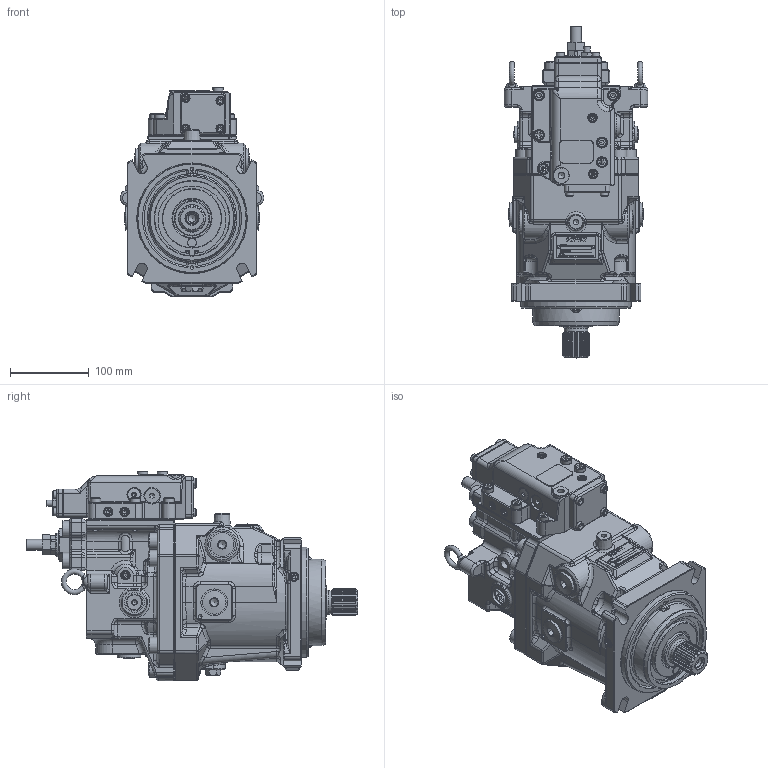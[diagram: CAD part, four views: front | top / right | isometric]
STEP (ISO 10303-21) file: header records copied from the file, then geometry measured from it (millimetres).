
FILE_DESCRIPTION(/* description */ (''),/* implementation_level */ '2;1');
FILE_NAME(/* name */ 'M7V85AC45-AA1H#XXXN-01.stp',/* time_stamp */ '2025-12-17T14:34:50Z',/* author */ ('Sjolliffe'),/* organization */ (''),/* preprocessor_version */ 'ST-DEVELOPER v20',/* originating_system */ 'Autodesk Inventor 2024',/* authorisation */ '');
FILE_SCHEMA (('CONFIG_CONTROL_DESIGN'));
Products named in the file (1): M7V85AC45-AA1H#XXXN-01
Bounding box: 183 x 422 x 267 mm (x, y, z)
Volume: 7374694.8 mm3; surface area: 362836.6 mm2
Topology: 1 solids, 1 shells, 3672 faces, 9285 edges, 5677 vertices
Faces by surface type: plane 1505, cylinder 1133, bspline 484, cone 325, torus 169, sphere 56
Full cylindrical faces by diameter (mm): 3 x1, 4 x1, 4.917 x4, 6 x2, 6.647 x1, 6.917 x3, 8 x1, 8.376 x1, 9.4 x17, 10 x8, 10.106 x9, 11 x9, 12 x17, 13 x6, 14 x8, 16 x1, 18 x2, 19 x1, 21 x15, 23 x12, 24 x1, 25 x4, 30 x7, 34 x5, 44 x1, 45 x1, 49 x1, 74 x1, 75.5 x1, 95 x1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
Entity records: 126663 total; most frequent: CARTESIAN_POINT 40728, ORIENTED_EDGE 18250, DIRECTION 17188, EDGE_CURVE 9125, AXIS2_PLACEMENT_3D 6353, VERTEX_POINT 5677, LINE 4482, VECTOR 4482
